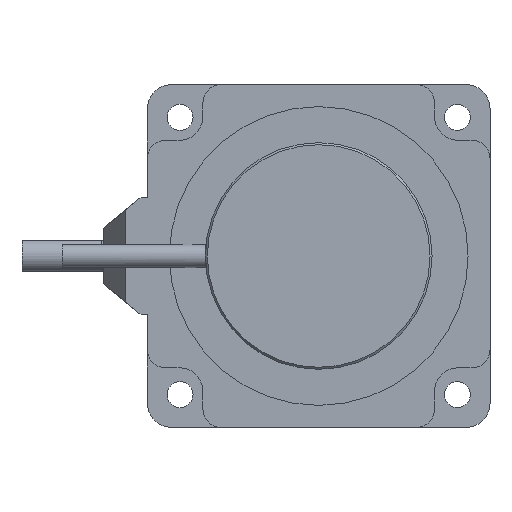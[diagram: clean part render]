
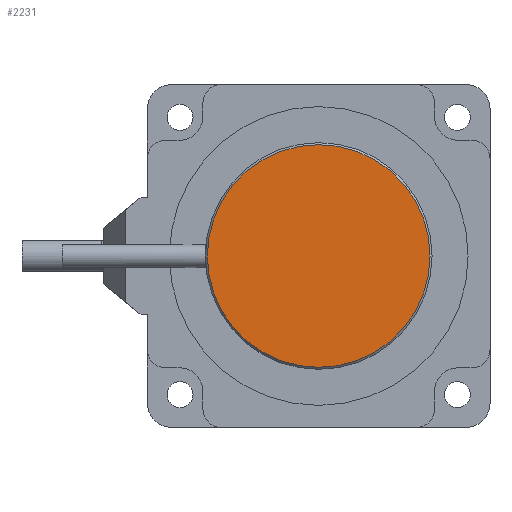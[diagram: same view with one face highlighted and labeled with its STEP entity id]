
A CAD part, front view. The second image highlights one B-rep face of the part: STEP entity #2231.
In plain terms, the highlighted planar face has unit normal (0, -1, 0).
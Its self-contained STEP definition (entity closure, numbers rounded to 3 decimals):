
#306 = CIRCLE ( 'NONE', #2799, 27.95 ) ;
#367 = ORIENTED_EDGE ( 'NONE', *, *, #2857, .T. ) ;
#385 = CARTESIAN_POINT ( 'NONE',  ( 0., -32.1, 0. ) ) ;
#469 = DIRECTION ( 'NONE',  ( 0., 0., -1. ) ) ;
#642 = DIRECTION ( 'NONE',  ( 0., 0., -1. ) ) ;
#656 = VERTEX_POINT ( 'NONE', #1004 ) ;
#893 = PLANE ( 'NONE',  #1749 ) ;
#981 = ORIENTED_EDGE ( 'NONE', *, *, #1982, .T. ) ;
#987 = CARTESIAN_POINT ( 'NONE',  ( 0., -32.1, 0. ) ) ;
#1004 = CARTESIAN_POINT ( 'NONE',  ( 0., -32.1, 27.95 ) ) ;
#1355 = DIRECTION ( 'NONE',  ( 0., 0., -1. ) ) ;
#1370 = FACE_OUTER_BOUND ( 'NONE', #1796, .T. ) ;
#1376 = VERTEX_POINT ( 'NONE', #2878 ) ;
#1458 = DIRECTION ( 'NONE',  ( 0., -1., 0. ) ) ;
#1749 = AXIS2_PLACEMENT_3D ( 'NONE', #385, #1807, #1355 ) ;
#1796 = EDGE_LOOP ( 'NONE', ( #367, #981 ) ) ;
#1807 = DIRECTION ( 'NONE',  ( 0., -1., 0. ) ) ;
#1814 = CARTESIAN_POINT ( 'NONE',  ( 0., -32.1, 0. ) ) ;
#1982 = EDGE_CURVE ( 'NONE', #1376, #656, #306, .T. ) ;
#2231 = ADVANCED_FACE ( 'NONE', ( #1370 ), #893, .T. ) ;
#2366 = AXIS2_PLACEMENT_3D ( 'NONE', #1814, #2966, #642 ) ;
#2799 = AXIS2_PLACEMENT_3D ( 'NONE', #987, #1458, #469 ) ;
#2857 = EDGE_CURVE ( 'NONE', #656, #1376, #2954, .T. ) ;
#2878 = CARTESIAN_POINT ( 'NONE',  ( 0., -32.1, -27.95 ) ) ;
#2954 = CIRCLE ( 'NONE', #2366, 27.95 ) ;
#2966 = DIRECTION ( 'NONE',  ( 0., -1., 0. ) ) ;
